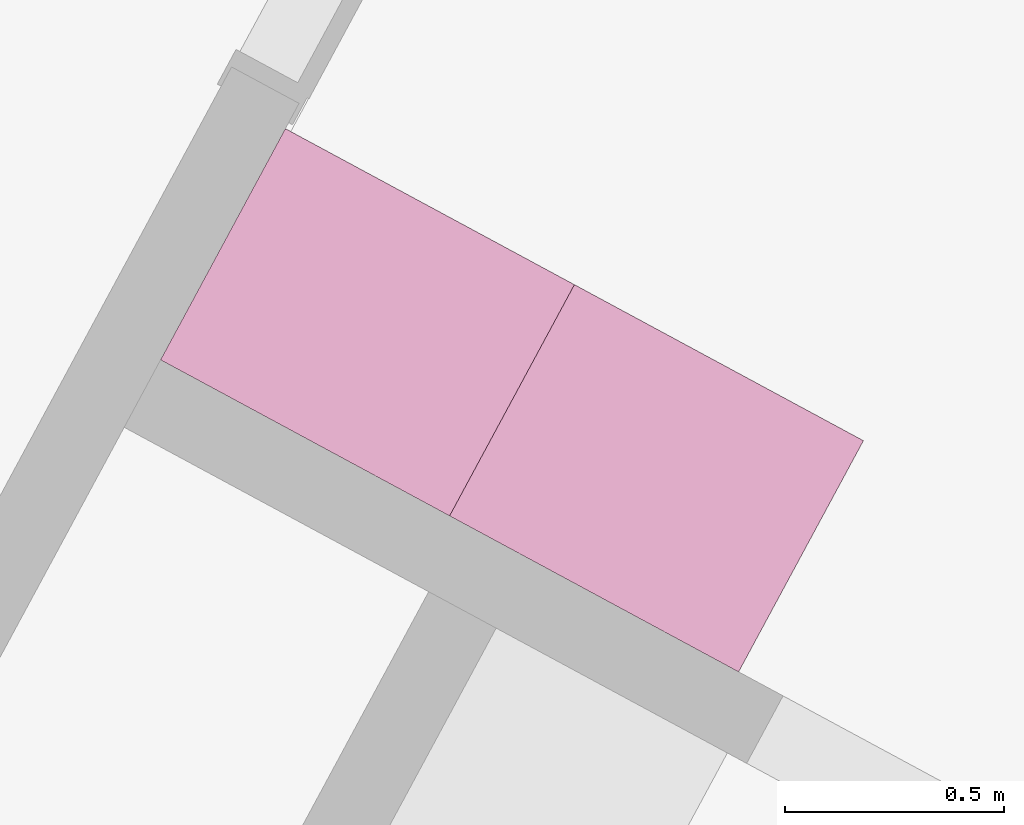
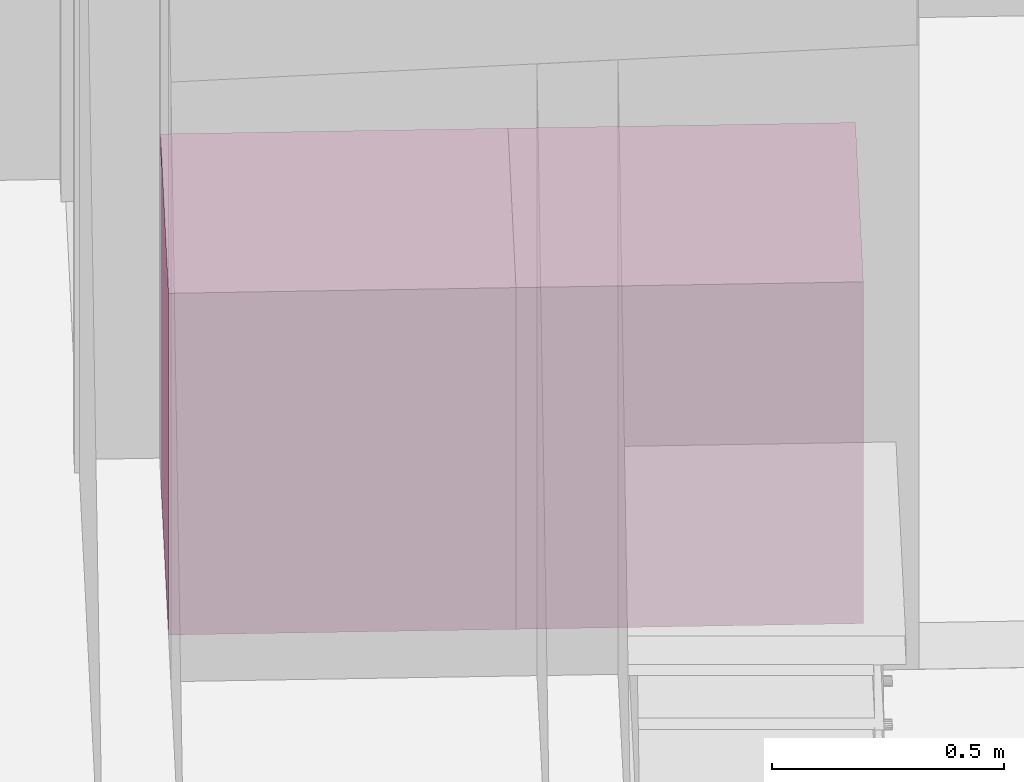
# One storey, part 26 of 36: 2 furnishings.
"""IFC2X3 building model written with IfcOpenShell, lengths in metres."""

from ifc_helpers import new_model, entity, si_unit, converted_unit, derived_unit, money_unit, direction, frame, origin_with_axes, place, context, subcontext, project, spatial, faceted_brep, source, transform, mapped, type_object, element, save


model = new_model("IFC2X3")

# Units and contexts
model_context = context("Model", 3, precision=1e-05, world=origin_with_axes(), true_north=direction((0.0, 1.0)))
body_context = subcontext(model_context, "Body", "Model", "MODEL_VIEW")
ifc_project = project(units=[si_unit("LENGTHUNIT", "METRE"), si_unit("AREAUNIT", "SQUARE_METRE"), si_unit("VOLUMEUNIT", "CUBIC_METRE"), converted_unit("PLANEANGLEUNIT", "DEGREE", entity("IfcPlaneAngleMeasure", 0.0174532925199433), si_unit("PLANEANGLEUNIT", "RADIAN"), dimensions=[0, 0, 0, 0, 0, 0, 0]), money_unit("EUR"), converted_unit("TIMEUNIT", "Year", entity("IfcTimeMeasure", 31556926.0), si_unit("TIMEUNIT", "SECOND"), dimensions=[0, 0, 1, 0, 0, 0, 0]), si_unit("MASSUNIT", "GRAM", prefix="KILO"), si_unit("THERMODYNAMICTEMPERATUREUNIT", "DEGREE_CELSIUS"), si_unit("LUMINOUSINTENSITYUNIT", "LUMEN"), si_unit("ENERGYUNIT", "JOULE", prefix="MEGA"), derived_unit("THERMALCONDUCTANCEUNIT", [(si_unit("POWERUNIT", "WATT"), 1), (si_unit("LENGTHUNIT", "METRE"), -1), (si_unit("THERMODYNAMICTEMPERATUREUNIT", "KELVIN"), -1)]), derived_unit("SPECIFICHEATCAPACITYUNIT", [(si_unit("ENERGYUNIT", "JOULE"), 1), (si_unit("MASSUNIT", "GRAM", prefix="KILO"), -1), (si_unit("THERMODYNAMICTEMPERATUREUNIT", "KELVIN"), -1)]), derived_unit("MASSDENSITYUNIT", [(si_unit("MASSUNIT", "GRAM", prefix="KILO"), 1), (si_unit("VOLUMEUNIT", "CUBIC_METRE"), -1)])], contexts=[model_context])

# Site, building, storey
site_placement = place(None, frame((-3.949935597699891, 1.740105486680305, 0.0), z_axis=(0.0, 0.0, 1.0), x_axis=(0.8799804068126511, -0.475009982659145, 0.0)))
site = spatial("IfcSite", under=ifc_project, at=site_placement, Name="Gelände", CompositionType="ELEMENT")
building_placement = place(site_placement, origin_with_axes())
building = spatial("IfcBuilding", under=site, at=building_placement, Name="Gebäude", CompositionType="ELEMENT")
storey_placement = place(building_placement, origin_with_axes())
storey = spatial("IfcBuildingStorey", under=building, at=storey_placement, Name="Erdgeschoss", CompositionType="ELEMENT", Elevation=0.0)

# Furnishings
furniture_type = type_object("IfcFurnitureType", Name="Unterschrank Mehrfach-Schublade 22", AssemblyPlace="NOTDEFINED")
shared_shape = source(origin_with_axes(), body_context, "Body", "Brep", [
    faceted_brep([(-0.001500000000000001, 0.07, 0.0915), (-0.001500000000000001, 0.05, 0.0915), (-0.7484999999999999, 0.05, 0.0915), (-0.7484999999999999, 0.07, 0.0915), (-0.001500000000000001, 0.07000000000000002, 0.2785), (-0.001500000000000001, 0.05000000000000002, 0.2785), (-0.7484999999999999, 0.05000000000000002, 0.2785), (-0.7484999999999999, 0.07000000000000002, 0.2785)], [[[0, 1, 2, 3]], [[4, 5, 1, 0]], [[1, 5, 6, 2]], [[3, 2, 6, 7]], [[0, 3, 7, 4]], [[7, 6, 5, 4]]]),
    faceted_brep([(-0.3704077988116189, 0.05, 0.2039134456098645), (-0.375, 0.05, 0.203), (-0.3795922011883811, 0.05, 0.2039134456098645), (-0.3834852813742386, 0.05, 0.2065147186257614), (-0.3860865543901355, 0.05, 0.2104077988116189), (-0.387, 0.05, 0.215), (-0.3860865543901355, 0.05, 0.2195922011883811), (-0.3834852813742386, 0.05, 0.2234852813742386), (-0.3795922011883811, 0.05, 0.2260865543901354), (-0.375, 0.05, 0.227), (-0.3704077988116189, 0.05, 0.2260865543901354), (-0.3665147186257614, 0.05, 0.2234852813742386), (-0.3639134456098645, 0.05, 0.2195922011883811), (-0.363, 0.05, 0.215), (-0.3639134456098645, 0.05, 0.2104077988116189), (-0.3665147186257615, 0.05, 0.2065147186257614), (-0.3704077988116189, 0.025, 0.2039134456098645), (-0.375, 0.025, 0.203), (-0.3795922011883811, 0.025, 0.2039134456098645), (-0.3834852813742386, 0.025, 0.2065147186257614), (-0.3860865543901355, 0.025, 0.2104077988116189), (-0.387, 0.025, 0.215), (-0.3860865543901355, 0.025, 0.2195922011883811), (-0.3834852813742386, 0.025, 0.2234852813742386), (-0.3795922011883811, 0.025, 0.2260865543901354), (-0.375, 0.025, 0.227), (-0.3704077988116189, 0.025, 0.2260865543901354), (-0.3665147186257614, 0.025, 0.2234852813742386), (-0.3639134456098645, 0.025, 0.2195922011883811), (-0.363, 0.025, 0.215), (-0.3639134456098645, 0.025, 0.2104077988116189), (-0.3665147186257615, 0.025, 0.2065147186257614)], [[[0, 1, 2, 3, 4, 5, 6, 7, 8, 9, 10, 11, 12, 13, 14, 15]], [[0, 16, 17, 1]], [[1, 17, 18, 2]], [[2, 18, 19, 3]], [[3, 19, 20, 4]], [[4, 20, 21, 5]], [[5, 21, 22, 6]], [[6, 22, 23, 7]], [[7, 23, 24, 8]], [[8, 24, 25, 9]], [[9, 25, 26, 10]], [[10, 26, 27, 11]], [[11, 27, 28, 12]], [[12, 28, 29, 13]], [[13, 29, 30, 14]], [[14, 30, 31, 15]], [[15, 31, 16, 0]], [[16, 31, 30, 29, 28, 27, 26, 25, 24, 23, 22, 21, 20, 19, 18, 17]]]),
    faceted_brep([(-0.001500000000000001, 0.07, 0.2815), (-0.001500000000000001, 0.05, 0.2815), (-0.7484999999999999, 0.05, 0.2815), (-0.7484999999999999, 0.07, 0.2815), (-0.001500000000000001, 0.07000000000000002, 0.4685), (-0.001500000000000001, 0.05000000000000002, 0.4685), (-0.7484999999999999, 0.05000000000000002, 0.4685), (-0.7484999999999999, 0.07000000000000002, 0.4685)], [[[0, 1, 2, 3]], [[4, 5, 1, 0]], [[1, 5, 6, 2]], [[3, 2, 6, 7]], [[0, 3, 7, 4]], [[7, 6, 5, 4]]]),
    faceted_brep([(-0.3704077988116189, 0.05, 0.3939134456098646), (-0.375, 0.05, 0.393), (-0.3795922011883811, 0.05, 0.3939134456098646), (-0.3834852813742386, 0.05, 0.3965147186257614), (-0.3860865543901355, 0.05, 0.400407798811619), (-0.387, 0.05, 0.405), (-0.3860865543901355, 0.05, 0.4095922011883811), (-0.3834852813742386, 0.05, 0.4134852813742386), (-0.3795922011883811, 0.05, 0.4160865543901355), (-0.375, 0.05, 0.417), (-0.3704077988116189, 0.05, 0.4160865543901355), (-0.3665147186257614, 0.05, 0.4134852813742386), (-0.3639134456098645, 0.05, 0.4095922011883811), (-0.363, 0.05, 0.405), (-0.3639134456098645, 0.05, 0.4004077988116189), (-0.3665147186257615, 0.05, 0.3965147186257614), (-0.3704077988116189, 0.025, 0.3939134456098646), (-0.375, 0.025, 0.393), (-0.3795922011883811, 0.025, 0.3939134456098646), (-0.3834852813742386, 0.025, 0.3965147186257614), (-0.3860865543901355, 0.025, 0.400407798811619), (-0.387, 0.025, 0.405), (-0.3860865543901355, 0.025, 0.4095922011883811), (-0.3834852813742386, 0.025, 0.4134852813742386), (-0.3795922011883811, 0.025, 0.4160865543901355), (-0.375, 0.025, 0.417), (-0.3704077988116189, 0.025, 0.4160865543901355), (-0.3665147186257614, 0.025, 0.4134852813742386), (-0.3639134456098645, 0.025, 0.4095922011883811), (-0.363, 0.025, 0.405), (-0.3639134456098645, 0.025, 0.4004077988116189), (-0.3665147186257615, 0.025, 0.3965147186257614)], [[[0, 1, 2, 3, 4, 5, 6, 7, 8, 9, 10, 11, 12, 13, 14, 15]], [[0, 16, 17, 1]], [[1, 17, 18, 2]], [[2, 18, 19, 3]], [[3, 19, 20, 4]], [[4, 20, 21, 5]], [[5, 21, 22, 6]], [[6, 22, 23, 7]], [[7, 23, 24, 8]], [[8, 24, 25, 9]], [[9, 25, 26, 10]], [[10, 26, 27, 11]], [[11, 27, 28, 12]], [[12, 28, 29, 13]], [[13, 29, 30, 14]], [[14, 30, 31, 15]], [[15, 31, 16, 0]], [[16, 31, 30, 29, 28, 27, 26, 25, 24, 23, 22, 21, 20, 19, 18, 17]]]),
    faceted_brep([(-0.02, 0.07, 0.28), (-0.02, 0.07, 0.3), (-0.73, 0.07, 0.3), (-0.73, 0.07, 0.28), (-0.02, 0.58, 0.28), (-0.02, 0.58, 0.3), (-0.73, 0.58, 0.3), (-0.73, 0.58, 0.28)], [[[0, 1, 2, 3]], [[4, 5, 1, 0]], [[1, 5, 6, 2]], [[3, 2, 6, 7]], [[0, 3, 7, 4]], [[7, 6, 5, 4]]]),
    faceted_brep([(-0.001500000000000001, 0.07, 0.4715), (-0.001500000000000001, 0.05, 0.4715), (-0.7484999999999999, 0.05, 0.4715), (-0.7484999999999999, 0.07, 0.4715), (-0.001500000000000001, 0.07000000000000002, 0.6585), (-0.001500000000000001, 0.05000000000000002, 0.6585), (-0.7484999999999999, 0.05000000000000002, 0.6585), (-0.7484999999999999, 0.07000000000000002, 0.6585)], [[[0, 1, 2, 3]], [[4, 5, 1, 0]], [[1, 5, 6, 2]], [[3, 2, 6, 7]], [[0, 3, 7, 4]], [[7, 6, 5, 4]]]),
    faceted_brep([(-0.3704077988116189, 0.05, 0.5839134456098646), (-0.375, 0.05, 0.583), (-0.3795922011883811, 0.05, 0.5839134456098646), (-0.3834852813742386, 0.05, 0.5865147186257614), (-0.3860865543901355, 0.05, 0.5904077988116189), (-0.387, 0.05, 0.595), (-0.3860865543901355, 0.05, 0.5995922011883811), (-0.3834852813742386, 0.05, 0.6034852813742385), (-0.3795922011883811, 0.05, 0.6060865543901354), (-0.375, 0.05, 0.607), (-0.3704077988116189, 0.05, 0.6060865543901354), (-0.3665147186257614, 0.05, 0.6034852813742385), (-0.3639134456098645, 0.05, 0.5995922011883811), (-0.363, 0.05, 0.595), (-0.3639134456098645, 0.05, 0.5904077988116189), (-0.3665147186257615, 0.05, 0.5865147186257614), (-0.3704077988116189, 0.025, 0.5839134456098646), (-0.375, 0.025, 0.583), (-0.3795922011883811, 0.025, 0.5839134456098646), (-0.3834852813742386, 0.025, 0.5865147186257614), (-0.3860865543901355, 0.025, 0.5904077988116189), (-0.387, 0.025, 0.595), (-0.3860865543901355, 0.025, 0.5995922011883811), (-0.3834852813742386, 0.025, 0.6034852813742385), (-0.3795922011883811, 0.025, 0.6060865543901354), (-0.375, 0.025, 0.607), (-0.3704077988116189, 0.025, 0.6060865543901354), (-0.3665147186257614, 0.025, 0.6034852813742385), (-0.3639134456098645, 0.025, 0.5995922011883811), (-0.363, 0.025, 0.595), (-0.3639134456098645, 0.025, 0.5904077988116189), (-0.3665147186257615, 0.025, 0.5865147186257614)], [[[0, 1, 2, 3, 4, 5, 6, 7, 8, 9, 10, 11, 12, 13, 14, 15]], [[0, 16, 17, 1]], [[1, 17, 18, 2]], [[2, 18, 19, 3]], [[3, 19, 20, 4]], [[4, 20, 21, 5]], [[5, 21, 22, 6]], [[6, 22, 23, 7]], [[7, 23, 24, 8]], [[8, 24, 25, 9]], [[9, 25, 26, 10]], [[10, 26, 27, 11]], [[11, 27, 28, 12]], [[12, 28, 29, 13]], [[13, 29, 30, 14]], [[14, 30, 31, 15]], [[15, 31, 16, 0]], [[16, 31, 30, 29, 28, 27, 26, 25, 24, 23, 22, 21, 20, 19, 18, 17]]]),
    faceted_brep([(-0.02, 0.07, 0.47), (-0.02, 0.07, 0.49), (-0.73, 0.07, 0.49), (-0.73, 0.07, 0.47), (-0.02, 0.58, 0.47), (-0.02, 0.58, 0.49), (-0.73, 0.58, 0.49), (-0.73, 0.58, 0.47)], [[[0, 1, 2, 3]], [[4, 5, 1, 0]], [[1, 5, 6, 2]], [[3, 2, 6, 7]], [[0, 3, 7, 4]], [[7, 6, 5, 4]]]),
    faceted_brep([(-0.001500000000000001, 0.07, 0.6615), (-0.001500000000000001, 0.05, 0.6615), (-0.7484999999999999, 0.05, 0.6615), (-0.7484999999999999, 0.07, 0.6615), (-0.001500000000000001, 0.07000000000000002, 0.8485), (-0.001500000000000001, 0.05000000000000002, 0.8485), (-0.7484999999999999, 0.05000000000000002, 0.8485), (-0.7484999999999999, 0.07000000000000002, 0.8485)], [[[0, 1, 2, 3]], [[4, 5, 1, 0]], [[1, 5, 6, 2]], [[3, 2, 6, 7]], [[0, 3, 7, 4]], [[7, 6, 5, 4]]]),
    faceted_brep([(-0.3704077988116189, 0.05, 0.7739134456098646), (-0.375, 0.05, 0.773), (-0.3795922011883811, 0.05, 0.7739134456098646), (-0.3834852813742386, 0.05, 0.7765147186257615), (-0.3860865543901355, 0.05, 0.7804077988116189), (-0.387, 0.05, 0.785), (-0.3860865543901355, 0.05, 0.7895922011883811), (-0.3834852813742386, 0.05, 0.7934852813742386), (-0.3795922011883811, 0.05, 0.7960865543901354), (-0.375, 0.05, 0.797), (-0.3704077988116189, 0.05, 0.7960865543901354), (-0.3665147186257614, 0.05, 0.7934852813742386), (-0.3639134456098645, 0.05, 0.7895922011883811), (-0.363, 0.05, 0.785), (-0.3639134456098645, 0.05, 0.7804077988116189), (-0.3665147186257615, 0.05, 0.7765147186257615), (-0.3704077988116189, 0.025, 0.7739134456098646), (-0.375, 0.025, 0.773), (-0.3795922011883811, 0.025, 0.7739134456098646), (-0.3834852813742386, 0.025, 0.7765147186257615), (-0.3860865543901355, 0.025, 0.7804077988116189), (-0.387, 0.025, 0.785), (-0.3860865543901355, 0.025, 0.7895922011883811), (-0.3834852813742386, 0.025, 0.7934852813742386), (-0.3795922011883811, 0.025, 0.7960865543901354), (-0.375, 0.025, 0.797), (-0.3704077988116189, 0.025, 0.7960865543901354), (-0.3665147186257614, 0.025, 0.7934852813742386), (-0.3639134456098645, 0.025, 0.7895922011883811), (-0.363, 0.025, 0.785), (-0.3639134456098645, 0.025, 0.7804077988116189), (-0.3665147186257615, 0.025, 0.7765147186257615)], [[[0, 1, 2, 3, 4, 5, 6, 7, 8, 9, 10, 11, 12, 13, 14, 15]], [[0, 16, 17, 1]], [[1, 17, 18, 2]], [[2, 18, 19, 3]], [[3, 19, 20, 4]], [[4, 20, 21, 5]], [[5, 21, 22, 6]], [[6, 22, 23, 7]], [[7, 23, 24, 8]], [[8, 24, 25, 9]], [[9, 25, 26, 10]], [[10, 26, 27, 11]], [[11, 27, 28, 12]], [[12, 28, 29, 13]], [[13, 29, 30, 14]], [[14, 30, 31, 15]], [[15, 31, 16, 0]], [[16, 31, 30, 29, 28, 27, 26, 25, 24, 23, 22, 21, 20, 19, 18, 17]]]),
    faceted_brep([(-0.02, 0.07, 0.66), (-0.02, 0.07, 0.68), (-0.73, 0.07, 0.68), (-0.73, 0.07, 0.66), (-0.02, 0.58, 0.66), (-0.02, 0.58, 0.68), (-0.73, 0.58, 0.68), (-0.73, 0.58, 0.66)], [[[0, 1, 2, 3]], [[4, 5, 1, 0]], [[1, 5, 6, 2]], [[3, 2, 6, 7]], [[0, 3, 7, 4]], [[7, 6, 5, 4]]]),
    faceted_brep([(0.0, 0.07, 0.0), (0.0, 0.07, 0.09), (-0.75, 0.07, 0.09), (-0.75, 0.07, 0.0), (0.0, 0.6, 0.0), (0.0, 0.6, 0.09), (-0.75, 0.6, 0.09), (-0.75, 0.6, 0.0)], [[[0, 1, 2, 3]], [[4, 5, 1, 0]], [[1, 5, 6, 2]], [[3, 2, 6, 7]], [[0, 3, 7, 4]], [[7, 6, 5, 4]]]),
    faceted_brep([(0.0, 0.07, 0.83), (0.0, 0.07, 0.85), (-0.02, 0.07, 0.85), (-0.02, 0.07, 0.83), (0.0, 0.6, 0.83), (0.0, 0.6, 0.85), (-0.02, 0.6, 0.85), (-0.73, 0.6, 0.85), (-0.75, 0.6, 0.85), (-0.75, 0.07, 0.85), (-0.73, 0.07, 0.85), (-0.73, 0.07, 0.83), (-0.75, 0.07, 0.83), (-0.75, 0.6, 0.83), (-0.73, 0.6, 0.83), (-0.02, 0.6, 0.83)], [[[0, 1, 2, 3]], [[4, 5, 1, 0]], [[1, 5, 6, 7, 8, 9, 10, 2]], [[3, 2, 10, 11]], [[0, 3, 11, 12, 13, 14, 15, 4]], [[15, 6, 5, 4]], [[14, 7, 6, 15]], [[13, 8, 7, 14]], [[12, 9, 8, 13]], [[11, 10, 9, 12]]]),
    faceted_brep([(0.0, 0.07, 0.09), (0.0, 0.07, 0.11), (-0.02, 0.07, 0.11), (-0.02, 0.07, 0.09), (0.0, 0.6, 0.09), (0.0, 0.6, 0.11), (-0.02, 0.6, 0.11), (-0.73, 0.6, 0.11), (-0.75, 0.6, 0.11), (-0.75, 0.07, 0.11), (-0.73, 0.07, 0.11), (-0.73, 0.07, 0.09), (-0.75, 0.07, 0.09), (-0.75, 0.6, 0.09), (-0.73, 0.6, 0.09), (-0.02, 0.6, 0.09)], [[[0, 1, 2, 3]], [[4, 5, 1, 0]], [[1, 5, 6, 7, 8, 9, 10, 2]], [[3, 2, 10, 11]], [[0, 3, 11, 12, 13, 14, 15, 4]], [[15, 6, 5, 4]], [[14, 7, 6, 15]], [[13, 8, 7, 14]], [[12, 9, 8, 13]], [[11, 10, 9, 12]]]),
    faceted_brep([(0.0, 0.07, 0.11), (0.0, 0.07, 0.83), (-0.02, 0.07, 0.83), (-0.02, 0.07, 0.11), (0.0, 0.6, 0.11), (0.0, 0.6, 0.83), (-0.75, 0.6, 0.83), (-0.75, 0.07, 0.83), (-0.73, 0.07, 0.83), (-0.73, 0.58, 0.83), (-0.02, 0.58, 0.83), (-0.02, 0.58, 0.11), (-0.73, 0.58, 0.11), (-0.73, 0.07, 0.11), (-0.75, 0.07, 0.11), (-0.75, 0.6, 0.11)], [[[0, 1, 2, 3]], [[4, 5, 1, 0]], [[1, 5, 6, 7, 8, 9, 10, 2]], [[3, 2, 10, 11]], [[0, 3, 11, 12, 13, 14, 15, 4]], [[15, 6, 5, 4]], [[14, 7, 6, 15]], [[13, 8, 7, 14]], [[12, 9, 8, 13]], [[11, 10, 9, 12]]]),
    faceted_brep([(0.0, 0.0, 0.85), (0.0, 0.0, 0.9), (-0.75, 0.0, 0.9), (-0.75, 0.0, 0.85), (0.0, 0.6, 0.85), (0.0, 0.6, 0.9), (-0.75, 0.6, 0.9), (-0.75, 0.6, 0.85)], [[[0, 1, 2, 3]], [[4, 5, 1, 0]], [[1, 5, 6, 2]], [[3, 2, 6, 7]], [[0, 3, 7, 4]], [[7, 6, 5, 4]]]),
])
for number, where, z_axis, x_axis, name in (
    (1, (10.53740756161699, 16.6496917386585, 0.0), (0.0, 0.0, 1.0), (-1.0, 0.0, 0.0), "Objekt-0064"),
    (2, (11.28740756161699, 16.6496917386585, 0.0), (0.0, 0.0, 1.0), (-1.0, 0.0, 0.0), "Objekt-0064"),
):
    element("IfcFurnishingElement", number, at=place(storey_placement, frame(where, z_axis=z_axis, x_axis=x_axis)), inside=storey, type_object=furniture_type, Name=name, ObjectType="FURNITURE", context=body_context, shape_type="MappedRepresentation", body=[
        mapped(shared_shape, transform((0.0, 0.0, 0.0))),
    ])

save(model, "model.ifc")
